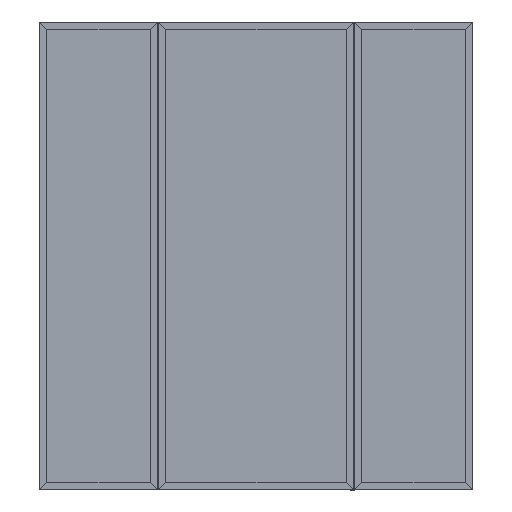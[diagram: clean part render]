
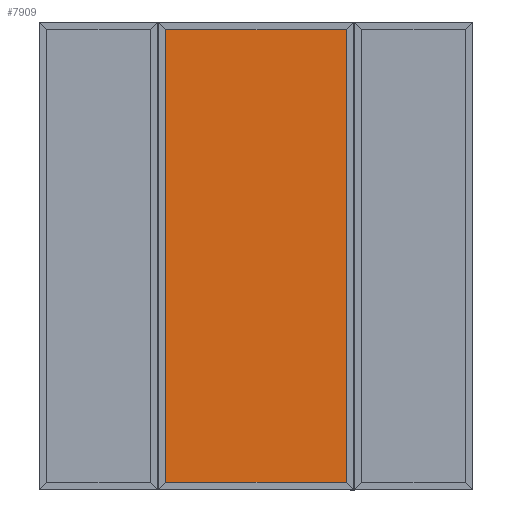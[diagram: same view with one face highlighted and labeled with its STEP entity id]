
A CAD part, top view. The second image highlights one B-rep face of the part: STEP entity #7909.
In plain terms, the highlighted planar face has unit normal (0, 0, 1).
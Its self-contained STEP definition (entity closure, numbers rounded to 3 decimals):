
#1952 = PLANE ( 'NONE',  #11984 ) ;
#2992 = CARTESIAN_POINT ( 'NONE',  ( -465.07, -1162.2, -13.25 ) ) ;
#5177 = VECTOR ( 'NONE', #27546, 1000. ) ;
#7709 = VECTOR ( 'NONE', #27374, 1000. ) ;
#7909 = ADVANCED_FACE ( 'NONE', ( #9964 ), #1952, .F. ) ;
#8941 = DIRECTION ( 'NONE',  ( 0., 0., -1. ) ) ;
#9944 = DIRECTION ( 'NONE',  ( 0., 1., 0. ) ) ;
#9964 = FACE_OUTER_BOUND ( 'NONE', #19772, .T. ) ;
#10204 = CARTESIAN_POINT ( 'NONE',  ( 465.07, 0., -13.25 ) ) ;
#11096 = CARTESIAN_POINT ( 'NONE',  ( -465.07, 1162.2, -13.25 ) ) ;
#11391 = LINE ( 'NONE', #31262, #7709 ) ;
#11728 = ORIENTED_EDGE ( 'NONE', *, *, #50202, .T. ) ;
#11809 = LINE ( 'NONE', #12570, #5177 ) ;
#11984 = AXIS2_PLACEMENT_3D ( 'NONE', #40454, #8941, #13590 ) ;
#12570 = CARTESIAN_POINT ( 'NONE',  ( -465.07, 0., -13.25 ) ) ;
#13590 = DIRECTION ( 'NONE',  ( -1., 0., 0. ) ) ;
#15413 = LINE ( 'NONE', #22637, #34219 ) ;
#15738 = VERTEX_POINT ( 'NONE', #18193 ) ;
#16480 = EDGE_CURVE ( 'NONE', #43630, #37236, #15413, .T. ) ;
#18193 = CARTESIAN_POINT ( 'NONE',  ( 465.07, 1162.2, -13.25 ) ) ;
#19772 = EDGE_LOOP ( 'NONE', ( #37795, #44091, #23091, #11728 ) ) ;
#20672 = VECTOR ( 'NONE', #9944, 1000. ) ;
#22637 = CARTESIAN_POINT ( 'NONE',  ( 0., -1162.2, -13.25 ) ) ;
#23091 = ORIENTED_EDGE ( 'NONE', *, *, #47060, .T. ) ;
#23272 = VERTEX_POINT ( 'NONE', #11096 ) ;
#27374 = DIRECTION ( 'NONE',  ( -1., 0., 0. ) ) ;
#27546 = DIRECTION ( 'NONE',  ( 0., 1., 0. ) ) ;
#31262 = CARTESIAN_POINT ( 'NONE',  ( 0., 1162.2, -13.25 ) ) ;
#34219 = VECTOR ( 'NONE', #49762, 1000. ) ;
#37236 = VERTEX_POINT ( 'NONE', #2992 ) ;
#37795 = ORIENTED_EDGE ( 'NONE', *, *, #40327, .F. ) ;
#40327 = EDGE_CURVE ( 'NONE', #37236, #23272, #11809, .T. ) ;
#40454 = CARTESIAN_POINT ( 'NONE',  ( 0., 0., -13.25 ) ) ;
#43630 = VERTEX_POINT ( 'NONE', #45640 ) ;
#44091 = ORIENTED_EDGE ( 'NONE', *, *, #16480, .F. ) ;
#45640 = CARTESIAN_POINT ( 'NONE',  ( 465.07, -1162.2, -13.25 ) ) ;
#47060 = EDGE_CURVE ( 'NONE', #43630, #15738, #48945, .T. ) ;
#48945 = LINE ( 'NONE', #10204, #20672 ) ;
#49762 = DIRECTION ( 'NONE',  ( -1., 0., 0. ) ) ;
#50202 = EDGE_CURVE ( 'NONE', #15738, #23272, #11391, .T. ) ;
